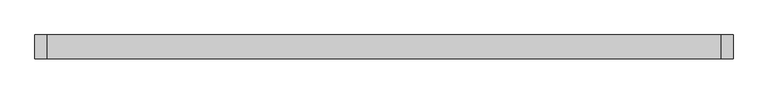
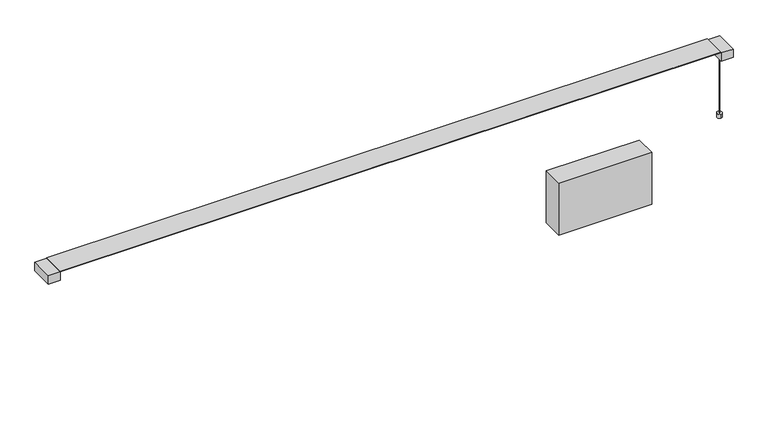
"""IFC4 building model written with IfcOpenShell, lengths in millimetres: light fixture geometry, Fabbian.Pivot F39 (F39 A01A 01,F39 A01A 21,F39 A01A 76,F39 A02A 01,F39 A02A 21,F39 A02A 76) : F39 A01A 01."""

from ifc_helpers import new_model, si_unit, point, frame, frame_2d, origin, origin_with_axes, place, context, project, spatial, polyline, circle_curve, trimmed, segment, composite_curve, outline, extrude, source, transform, mapped, element, save


def light_fixture_eab2339f(model_context):
    return source(origin(), model_context, "Body", "SweptSolid", [
        extrude(outline(polyline([(619.1350388, -24.9666442), (399.1348055, -24.9666442), (399.1348055, 25.0334567), (619.1350388, 25.0334567), (619.1350388, -24.9666442)])), frame((0.0, 0.0, -142.875), z_axis=(0.0, 0.0, 1.0), x_axis=(1.0, 0.0, 0.0)), (0.0, 0.0, 1.0), 130.175),
        extrude(outline(composite_curve([segment(trimmed(circle_curve(frame_2d((794.2560169, 0.0)), 0.4949808), [point((794.7509977, 0.0))], [point((793.7610361, 0.0))], False, "CARTESIAN"), True, "CONTINUOUS"), segment(trimmed(circle_curve(frame_2d((794.2560169, 0.0)), 0.4949808), [point((793.7610361, 0.0))], [point((794.7509977, 0.0))], False, "CARTESIAN"), True, "CONTINUOUS")], self_intersect=False)), origin_with_axes(), (0.0, 0.0, 1.0), 159.6242394),
        extrude(outline(polyline([(0.4107254, 159.893756), (0.4107254, 160.681594), (-0.4107259, 160.681594), (-0.4107259, 159.893756), (-25.5497693, 181.0787506), (26.3879175, 181.0787506), (0.4107254, 159.893756)])), frame((-782.3132834, 0.0, 0.0), z_axis=(1.0, 0.0, 0.0), x_axis=(0.0, 1.0, 0.0)), (0.0, 0.0, 1.0), 1564.6265668),
        extrude(outline(polyline([(-782.3132834, -27.7285043), (-810.5140956, -27.7285043), (-810.5140956, 27.7953166), (-782.3132834, 27.7953166), (-782.3132834, -27.7285043)])), frame((0.0, 0.0, 159.6242394), z_axis=(0.0, 0.0, 1.0), x_axis=(1.0, 0.0, 0.0)), (0.0, 0.0, 1.0), 20.8761838),
        extrude(outline(polyline([(782.3132834, -27.7285042), (782.3132834, 27.7953167), (810.5140956, 27.7953167), (810.5140956, -27.7285042), (782.3132834, -27.7285042)])), frame((0.0, 0.0, 159.6242394), z_axis=(0.0, 0.0, 1.0), x_axis=(1.0, 0.0, 0.0)), (0.0, 0.0, 1.0), 20.8761838),
        extrude(outline(polyline([(0.0, 0.8214513), (1564.6265668, 0.8214513), (1564.6265668, 0.0), (0.0, 0.0), (0.0, 0.8214513)])), frame((-782.3132834, -0.4107259, 159.893756), z_axis=(-5.7155291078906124e-11, 0.0, 1.0), x_axis=(1.0, 0.0, 5.7155291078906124e-11)), (0.0, 0.0, 1.0), 0.787838),
        extrude(outline(polyline([(781.7488887, 27.7780006), (781.7488887, -27.7779986), (-782.3132834, -27.7779986), (-782.3132834, 27.7780006), (781.7488887, 27.7780006)])), frame((0.0, 0.0, 181.0787506), z_axis=(0.0, 0.0, 1.0), x_axis=(1.0, 0.0, 0.0)), (0.0, 0.0, 1.0), 1.1514277),
        extrude(outline(composite_curve([segment(trimmed(circle_curve(frame_2d((794.2560169, 0.4556113)), 5.8155806), [point((795.0837096, -5.3007681))], [point((793.4283243, 6.2119906))], False, "CARTESIAN"), True, "CONTINUOUS"), segment(trimmed(circle_curve(frame_2d((794.2560169, 0.4556113)), 5.8155806), [point((793.4283243, 6.2119906))], [point((795.0837096, -5.3007681))], False, "CARTESIAN"), True, "CONTINUOUS")], self_intersect=False)), origin_with_axes(), (0.0, 0.0, 1.0), 9.6582083),
    ])


if __name__ == "__main__":
    model = new_model("IFC4")
    model_context = context("Model", 3, world=origin())
    ifc_project = project(units=[si_unit("LENGTHUNIT", "METRE", prefix="MILLI")], contexts=[model_context])
    site = spatial("IfcSite", under=ifc_project)
    building = spatial("IfcBuilding", under=site)
    placement = place(None, origin())
    light_fixture_shape = light_fixture_eab2339f(model_context)
    element("IfcLightFixture", 1, ObjectType="Fabbian.Pivot F39 (F39 A01A 01,F39 A01A 21,F39 A01A 76,F39 A02A 01,F39 A02A 21,F39 A02A 76) : F39 A01A 01", at=placement, inside=building, context=model_context, shape_type="MappedRepresentation", body=[
        mapped(light_fixture_shape, transform((0.0, 0.0, 0.0), x_axis=(1.0, 0.0, 0.0), y_axis=(0.0, 1.0, 0.0), z_axis=(0.0, 0.0, 1.0))),
    ])
    save(model, "model.ifc")
